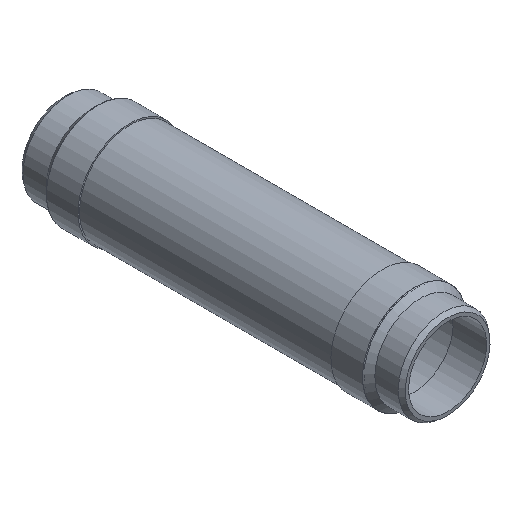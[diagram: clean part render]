
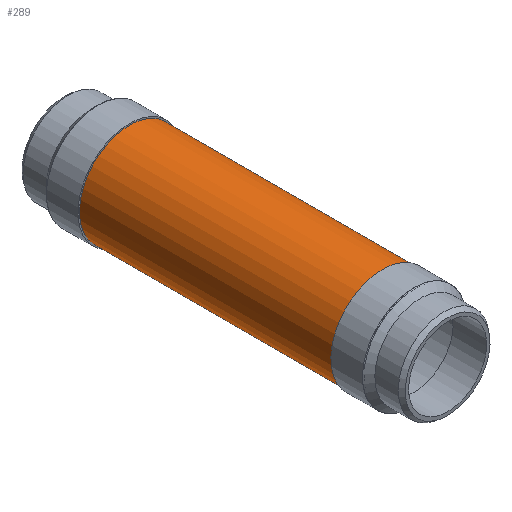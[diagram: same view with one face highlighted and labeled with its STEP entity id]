
A CAD part, isometric view. The second image highlights one B-rep face of the part: STEP entity #289.
In plain terms, the highlighted cylindrical face has radius 40.284 mm (diameter 80.569 mm), a full revolution.
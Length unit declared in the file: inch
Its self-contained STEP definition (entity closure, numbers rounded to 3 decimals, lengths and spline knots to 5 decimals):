
#34=FACE_BOUND('',#85,.T.);
#58=FACE_OUTER_BOUND('',#84,.T.);
#84=EDGE_LOOP('',(#204));
#85=EDGE_LOOP('',(#205));
#130=CIRCLE('',#321,1.586);
#131=CIRCLE('',#323,1.586);
#154=VERTEX_POINT('',#470);
#155=VERTEX_POINT('',#473);
#178=EDGE_CURVE('',#154,#154,#130,.T.);
#179=EDGE_CURVE('',#155,#155,#131,.T.);
#204=ORIENTED_EDGE('',*,*,#178,.T.);
#205=ORIENTED_EDGE('',*,*,#179,.T.);
#249=CYLINDRICAL_SURFACE('',#322,1.586);
#289=ADVANCED_FACE('',(#58,#34),#249,.T.);
#321=AXIS2_PLACEMENT_3D('',#471,#375,#376);
#322=AXIS2_PLACEMENT_3D('',#472,#377,#378);
#323=AXIS2_PLACEMENT_3D('',#474,#379,#380);
#375=DIRECTION('center_axis',(0.,1.,0.));
#376=DIRECTION('ref_axis',(-0.317,0.,0.948));
#377=DIRECTION('center_axis',(0.,1.,0.));
#378=DIRECTION('ref_axis',(-0.317,0.,0.948));
#379=DIRECTION('center_axis',(0.,-1.,0.));
#380=DIRECTION('ref_axis',(-0.317,0.,0.948));
#470=CARTESIAN_POINT('',(0.50333,1.0625,-1.50401));
#471=CARTESIAN_POINT('Origin',(0.,1.0625,0.));
#472=CARTESIAN_POINT('Origin',(0.,6.0625,0.));
#473=CARTESIAN_POINT('',(0.50333,11.0625,-1.50401));
#474=CARTESIAN_POINT('Origin',(0.,11.0625,0.));
